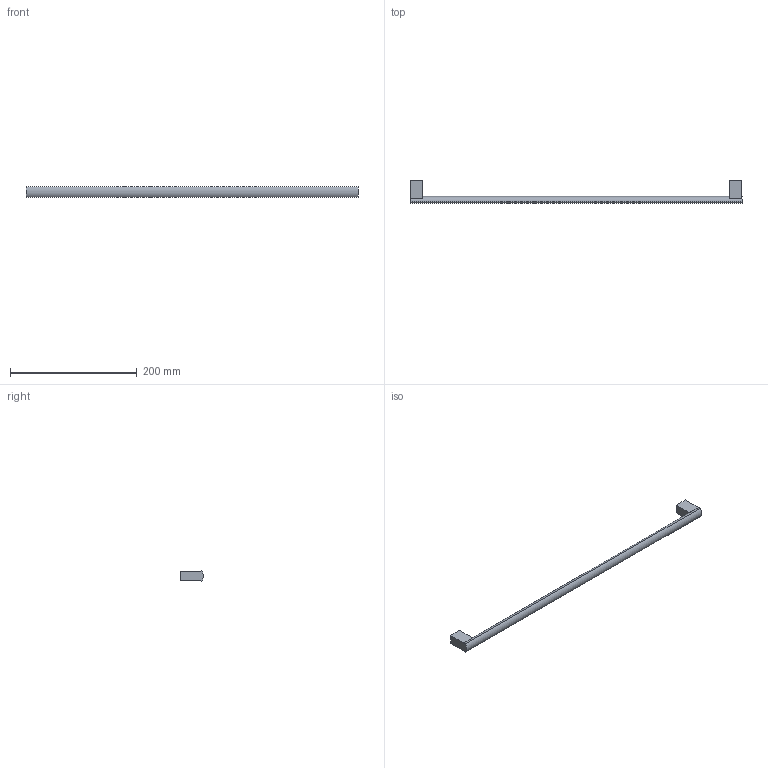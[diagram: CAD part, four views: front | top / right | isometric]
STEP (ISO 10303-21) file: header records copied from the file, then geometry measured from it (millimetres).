
FILE_DESCRIPTION( ( 'STEP AP214' ), '1' );
FILE_NAME( 'D:/Shahbaz D&D/Task/Check and correct handles with 3 drill sockets/Clivia/115213.stp', '2023-02-20T11:06:18', ( '' ), ( '' ), ' ', 'PARTsolutions', ' ' );
FILE_SCHEMA( ( 'AUTOMOTIVE_DESIGN { 1 0 10303 214 1 1 1 1 }' ) );
Length unit declared in the file: millimetre
Products named in the file (1): _115213
Bounding box: 524 x 35.96 x 16 mm (x, y, z)
Volume: 85535.7 mm3; surface area: 26664.9 mm2
Topology: 1 solids, 1 shells, 21 faces, 48 edges, 32 vertices
Faces by surface type: plane 17, cylinder 4
Full cylindrical faces by diameter (mm): 4 x2
Entity records: 768 total; most frequent: DIRECTION 102, CARTESIAN_POINT 100, ORIENTED_EDGE 92, EDGE_CURVE 46, AXIS2_PLACEMENT_3D 34, LINE 34, VECTOR 34, VERTEX_POINT 32
